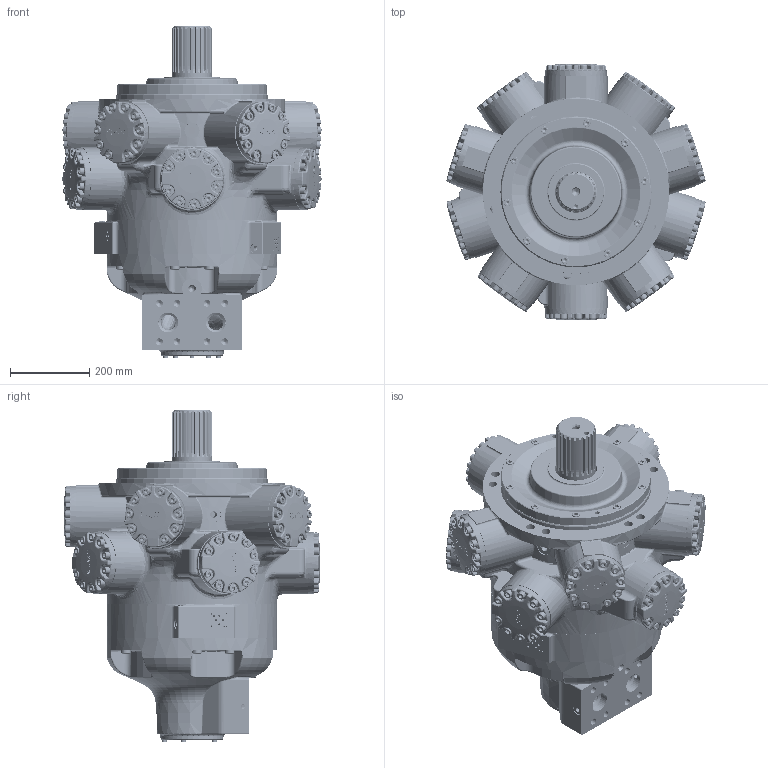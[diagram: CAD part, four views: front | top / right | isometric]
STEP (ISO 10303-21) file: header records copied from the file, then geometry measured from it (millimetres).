
FILE_DESCRIPTION(/* description */ (''),/* implementation_level */ '2;1');
FILE_NAME(/* name */ 'J:\3D Step files\Approved for WEB\Staffa\HPC400 S5 SM45 C 10.stp',/* time_stamp */ '2014-07-23T10:00:11+01:00',/* author */ ('mnorman'),/* organization */ (''),/* preprocessor_version */ 'ST-DEVELOPER v15.6',/* originating_system */ 'Autodesk Inventor 2015',/* authorisation */ '');
FILE_SCHEMA (('AUTOMOTIVE_DESIGN { 1 0 10303 214 3 1 1 }'));
Products named in the file (1): HPC400 S5 S045 C 10
Bounding box: 652.65 x 643.6 x 836.29 mm (x, y, z)
Volume: 64225301.5 mm3; surface area: 4620793.2 mm2
Topology: 2 solids, 258 shells, 7623 faces, 18744 edges, 11689 vertices
Faces by surface type: plane 2770, cylinder 1617, bspline 1542, cone 726, torus 694, sphere 274
Full cylindrical faces by diameter (mm): 3 x3, 3.05 x1, 3.175 x4, 4 x2, 4.134 x8, 5.5 x10, 6 x10, 6.2 x4, 6.782 x5, 7.874 x2, 7.938 x5, 8.334 x5, 10.106 x6, 10.109 x5, 11.328 x114, 11.445 x2, 11.455 x2, 11.5 x1, 11.913 x5, 12 x3, 12.7 x115, 12.71 x1, 13.494 x10, 13.5 x100, 13.843 x10, 14 x4, 16 x10, 17.297 x13, 17.323 x1, 18 x23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
Entity records: 258392 total; most frequent: CARTESIAN_POINT 97807, ORIENTED_EDGE 31426, DIRECTION 27947, EDGE_CURVE 15713, AXIS2_PLACEMENT_3D 11160, VERTEX_POINT 10677, EDGE_LOOP 10062, FACE_OUTER_BOUND 7619
